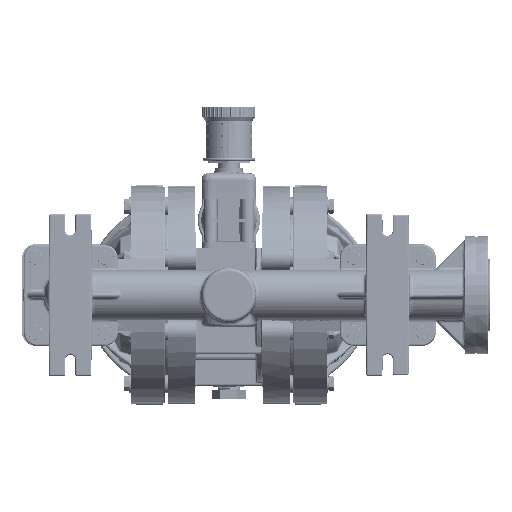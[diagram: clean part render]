
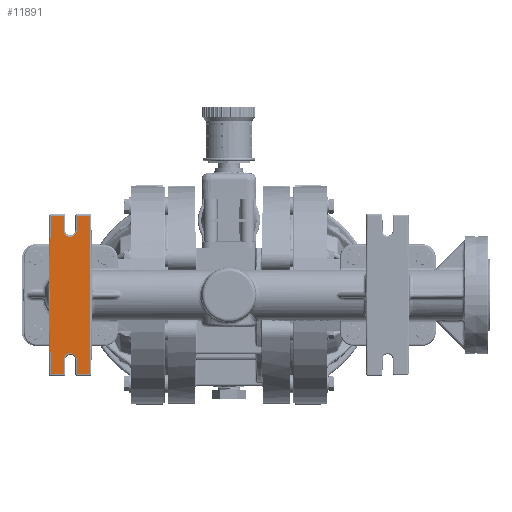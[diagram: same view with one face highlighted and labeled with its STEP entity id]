
A CAD part, front view. The second image highlights one B-rep face of the part: STEP entity #11891.
In plain terms, the highlighted planar face has unit normal (0, -1, 0).
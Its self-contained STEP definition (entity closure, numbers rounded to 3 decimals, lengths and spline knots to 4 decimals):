
#796 = VERTEX_POINT ( 'NONE', #66825 ) ;
#3578 = CARTESIAN_POINT ( 'NONE',  ( -6.805, -9.423, 0. ) ) ;
#3747 = AXIS2_PLACEMENT_3D ( 'NONE', #188162, #314877, #59492 ) ;
#6794 = ORIENTED_EDGE ( 'NONE', *, *, #287293, .T. ) ;
#7363 = CARTESIAN_POINT ( 'NONE',  ( -5.265, -9.423, 0. ) ) ;
#8327 = ORIENTED_EDGE ( 'NONE', *, *, #201171, .T. ) ;
#9268 = DIRECTION ( 'NONE',  ( 0.009, 0., 1. ) ) ;
#11891 = ADVANCED_FACE ( 'NONE', ( #96750 ), #310799, .T. ) ;
#15370 = VECTOR ( 'NONE', #368147, 39.3701 ) ;
#17101 = CARTESIAN_POINT ( 'NONE',  ( -6.2874, -9.423, -3.02 ) ) ;
#24708 = VERTEX_POINT ( 'NONE', #7363 ) ;
#33395 = EDGE_CURVE ( 'NONE', #76566, #185719, #57661, .T. ) ;
#33603 = VECTOR ( 'NONE', #137979, 39.3701 ) ;
#33814 = DIRECTION ( 'NONE',  ( -1., 0., 0.001 ) ) ;
#35586 = EDGE_CURVE ( 'NONE', #407006, #235024, #395357, .T. ) ;
#39643 = ORIENTED_EDGE ( 'NONE', *, *, #35586, .T. ) ;
#42223 = VECTOR ( 'NONE', #9268, 39.3701 ) ;
#43300 = ORIENTED_EDGE ( 'NONE', *, *, #71730, .T. ) ;
#44447 = EDGE_LOOP ( 'NONE', ( #122117, #50172, #6794, #312704, #304618, #384032, #59476, #39643, #300325, #43300, #274692, #350828, #266533, #135748, #73113, #8327 ) ) ;
#44501 = LINE ( 'NONE', #293729, #33603 ) ;
#46577 = CARTESIAN_POINT ( 'NONE',  ( -6.2874, -9.423, -3.02 ) ) ;
#49733 = CARTESIAN_POINT ( 'NONE',  ( -6.2874, -9.423, 3.02 ) ) ;
#50172 = ORIENTED_EDGE ( 'NONE', *, *, #401544, .T. ) ;
#53389 = VECTOR ( 'NONE', #173183, 39.3701 ) ;
#57661 = CIRCLE ( 'NONE', #203515, 0.2475 ) ;
#59476 = ORIENTED_EDGE ( 'NONE', *, *, #397659, .T. ) ;
#59492 = DIRECTION ( 'NONE',  ( 0., 0., -1. ) ) ;
#61197 = DIRECTION ( 'NONE',  ( 1., 0., 0. ) ) ;
#61419 = EDGE_CURVE ( 'NONE', #403707, #275047, #216975, .T. ) ;
#65622 = CARTESIAN_POINT ( 'NONE',  ( -6.035, -9.423, -2.46 ) ) ;
#65635 = CIRCLE ( 'NONE', #118733, 0.2475 ) ;
#66774 = VERTEX_POINT ( 'NONE', #3578 ) ;
#66825 = CARTESIAN_POINT ( 'NONE',  ( -5.7875, -9.423, -2.4597 ) ) ;
#71730 = EDGE_CURVE ( 'NONE', #66774, #403707, #150004, .T. ) ;
#73113 = ORIENTED_EDGE ( 'NONE', *, *, #282182, .T. ) ;
#73620 = DIRECTION ( 'NONE',  ( 0.009, 0., -1. ) ) ;
#75526 = AXIS2_PLACEMENT_3D ( 'NONE', #118408, #245058, #371723 ) ;
#76566 = VERTEX_POINT ( 'NONE', #78996 ) ;
#78996 = CARTESIAN_POINT ( 'NONE',  ( -6.2825, -9.423, -2.4597 ) ) ;
#85925 = VERTEX_POINT ( 'NONE', #172334 ) ;
#86992 = CARTESIAN_POINT ( 'NONE',  ( -5.7826, -9.423, -3.02 ) ) ;
#94950 = VECTOR ( 'NONE', #161912, 39.3701 ) ;
#96750 = FACE_OUTER_BOUND ( 'NONE', #44447, .T. ) ;
#97008 = CARTESIAN_POINT ( 'NONE',  ( -6.2874, -9.423, 3.02 ) ) ;
#98153 = VECTOR ( 'NONE', #233582, 39.3701 ) ;
#99066 = DIRECTION ( 'NONE',  ( -1., 0., 0. ) ) ;
#104769 = LINE ( 'NONE', #358118, #340098 ) ;
#106888 = CARTESIAN_POINT ( 'NONE',  ( -5.2914, -9.423, 3.02 ) ) ;
#116886 = EDGE_CURVE ( 'NONE', #387080, #305082, #44501, .T. ) ;
#118408 = CARTESIAN_POINT ( 'NONE',  ( -6.035, -9.423, 2.46 ) ) ;
#118733 = AXIS2_PLACEMENT_3D ( 'NONE', #270869, #179411, #148289 ) ;
#118977 = CARTESIAN_POINT ( 'NONE',  ( -5.265, -9.423, 0. ) ) ;
#122117 = ORIENTED_EDGE ( 'NONE', *, *, #372224, .T. ) ;
#128412 = LINE ( 'NONE', #192711, #320688 ) ;
#134096 = DIRECTION ( 'NONE',  ( 0., 1., 0. ) ) ;
#135748 = ORIENTED_EDGE ( 'NONE', *, *, #145673, .T. ) ;
#137979 = DIRECTION ( 'NONE',  ( -0.009, 0., -1. ) ) ;
#145673 = EDGE_CURVE ( 'NONE', #185719, #796, #349255, .T. ) ;
#148289 = DIRECTION ( 'NONE',  ( 1., 0., -0.001 ) ) ;
#150004 = LINE ( 'NONE', #299674, #15370 ) ;
#157187 = VERTEX_POINT ( 'NONE', #303442 ) ;
#161912 = DIRECTION ( 'NONE',  ( -0.009, 0., 1. ) ) ;
#163642 = AXIS2_PLACEMENT_3D ( 'NONE', #189583, #253950, #33814 ) ;
#163960 = CARTESIAN_POINT ( 'NONE',  ( -6.2825, -9.423, 2.4597 ) ) ;
#172334 = CARTESIAN_POINT ( 'NONE',  ( -5.2914, -9.423, 3.02 ) ) ;
#173183 = DIRECTION ( 'NONE',  ( 0.009, 0., 1. ) ) ;
#179411 = DIRECTION ( 'NONE',  ( 0., 1., 0. ) ) ;
#185719 = VERTEX_POINT ( 'NONE', #267146 ) ;
#188162 = CARTESIAN_POINT ( 'NONE',  ( 0., -9.423, 0. ) ) ;
#189583 = CARTESIAN_POINT ( 'NONE',  ( -6.035, -9.423, -2.46 ) ) ;
#192711 = CARTESIAN_POINT ( 'NONE',  ( -6.7786, -9.423, 3.02 ) ) ;
#199135 = CARTESIAN_POINT ( 'NONE',  ( -5.2914, -9.423, -3.02 ) ) ;
#201171 = EDGE_CURVE ( 'NONE', #361547, #280574, #211603, .T. ) ;
#203515 = AXIS2_PLACEMENT_3D ( 'NONE', #65622, #134096, #325138 ) ;
#204102 = VECTOR ( 'NONE', #99066, 39.3701 ) ;
#211603 = LINE ( 'NONE', #86992, #227532 ) ;
#213420 = CARTESIAN_POINT ( 'NONE',  ( -5.7826, -9.423, -3.02 ) ) ;
#216975 = LINE ( 'NONE', #250154, #312796 ) ;
#227532 = VECTOR ( 'NONE', #336255, 39.3701 ) ;
#228190 = CIRCLE ( 'NONE', #75526, 0.2475 ) ;
#229709 = VECTOR ( 'NONE', #335013, 39.3701 ) ;
#233582 = DIRECTION ( 'NONE',  ( -1., 0., 0. ) ) ;
#235024 = VERTEX_POINT ( 'NONE', #298669 ) ;
#245058 = DIRECTION ( 'NONE',  ( 0., 1., 0. ) ) ;
#250154 = CARTESIAN_POINT ( 'NONE',  ( -6.7786, -9.423, -3.02 ) ) ;
#253950 = DIRECTION ( 'NONE',  ( 0., 1., 0. ) ) ;
#264696 = LINE ( 'NONE', #106888, #98153 ) ;
#266533 = ORIENTED_EDGE ( 'NONE', *, *, #33395, .T. ) ;
#267146 = CARTESIAN_POINT ( 'NONE',  ( -5.7875, -9.423, -2.4553 ) ) ;
#270869 = CARTESIAN_POINT ( 'NONE',  ( -6.035, -9.423, 2.46 ) ) ;
#271824 = EDGE_CURVE ( 'NONE', #305082, #372386, #65635, .T. ) ;
#274692 = ORIENTED_EDGE ( 'NONE', *, *, #61419, .T. ) ;
#274872 = CARTESIAN_POINT ( 'NONE',  ( -5.2914, -9.423, -3.02 ) ) ;
#275047 = VERTEX_POINT ( 'NONE', #17101 ) ;
#280574 = VERTEX_POINT ( 'NONE', #199135 ) ;
#282182 = EDGE_CURVE ( 'NONE', #796, #361547, #104769, .T. ) ;
#287293 = EDGE_CURVE ( 'NONE', #85925, #387080, #264696, .T. ) ;
#288251 = DIRECTION ( 'NONE',  ( -0.009, 0., -1. ) ) ;
#293729 = CARTESIAN_POINT ( 'NONE',  ( -5.7826, -9.423, 3.02 ) ) ;
#298669 = CARTESIAN_POINT ( 'NONE',  ( -6.7786, -9.423, 3.02 ) ) ;
#299674 = CARTESIAN_POINT ( 'NONE',  ( -6.805, -9.423, 0. ) ) ;
#300325 = ORIENTED_EDGE ( 'NONE', *, *, #326939, .T. ) ;
#301937 = LINE ( 'NONE', #274872, #53389 ) ;
#303442 = CARTESIAN_POINT ( 'NONE',  ( -6.2825, -9.423, 2.4597 ) ) ;
#303833 = LINE ( 'NONE', #118977, #229709 ) ;
#304618 = ORIENTED_EDGE ( 'NONE', *, *, #271824, .T. ) ;
#305082 = VERTEX_POINT ( 'NONE', #321308 ) ;
#310799 = PLANE ( 'NONE',  #3747 ) ;
#312704 = ORIENTED_EDGE ( 'NONE', *, *, #116886, .T. ) ;
#312796 = VECTOR ( 'NONE', #61197, 39.3701 ) ;
#314877 = DIRECTION ( 'NONE',  ( 0., -1., 0. ) ) ;
#320688 = VECTOR ( 'NONE', #288251, 39.3701 ) ;
#321308 = CARTESIAN_POINT ( 'NONE',  ( -5.7875, -9.423, 2.4597 ) ) ;
#325138 = DIRECTION ( 'NONE',  ( -1., 0., 0.001 ) ) ;
#326939 = EDGE_CURVE ( 'NONE', #235024, #66774, #128412, .T. ) ;
#327662 = EDGE_CURVE ( 'NONE', #372386, #157187, #228190, .T. ) ;
#331099 = LINE ( 'NONE', #46577, #42223 ) ;
#335013 = DIRECTION ( 'NONE',  ( -0.009, 0., 1. ) ) ;
#336255 = DIRECTION ( 'NONE',  ( 1., 0., 0. ) ) ;
#340098 = VECTOR ( 'NONE', #73620, 39.3701 ) ;
#345862 = CARTESIAN_POINT ( 'NONE',  ( -6.7786, -9.423, -3.02 ) ) ;
#349255 = CIRCLE ( 'NONE', #163642, 0.2475 ) ;
#350828 = ORIENTED_EDGE ( 'NONE', *, *, #398468, .T. ) ;
#352960 = LINE ( 'NONE', #163960, #94950 ) ;
#358118 = CARTESIAN_POINT ( 'NONE',  ( -5.7875, -9.423, -2.4597 ) ) ;
#361547 = VERTEX_POINT ( 'NONE', #213420 ) ;
#368147 = DIRECTION ( 'NONE',  ( 0.009, 0., -1. ) ) ;
#371723 = DIRECTION ( 'NONE',  ( 1., 0., -0.001 ) ) ;
#372224 = EDGE_CURVE ( 'NONE', #280574, #24708, #301937, .T. ) ;
#372386 = VERTEX_POINT ( 'NONE', #401549 ) ;
#384032 = ORIENTED_EDGE ( 'NONE', *, *, #327662, .T. ) ;
#387080 = VERTEX_POINT ( 'NONE', #392425 ) ;
#392425 = CARTESIAN_POINT ( 'NONE',  ( -5.7826, -9.423, 3.02 ) ) ;
#395357 = LINE ( 'NONE', #97008, #204102 ) ;
#397659 = EDGE_CURVE ( 'NONE', #157187, #407006, #352960, .T. ) ;
#398468 = EDGE_CURVE ( 'NONE', #275047, #76566, #331099, .T. ) ;
#401544 = EDGE_CURVE ( 'NONE', #24708, #85925, #303833, .T. ) ;
#401549 = CARTESIAN_POINT ( 'NONE',  ( -6.2825, -9.423, 2.4553 ) ) ;
#403707 = VERTEX_POINT ( 'NONE', #345862 ) ;
#407006 = VERTEX_POINT ( 'NONE', #49733 ) ;
